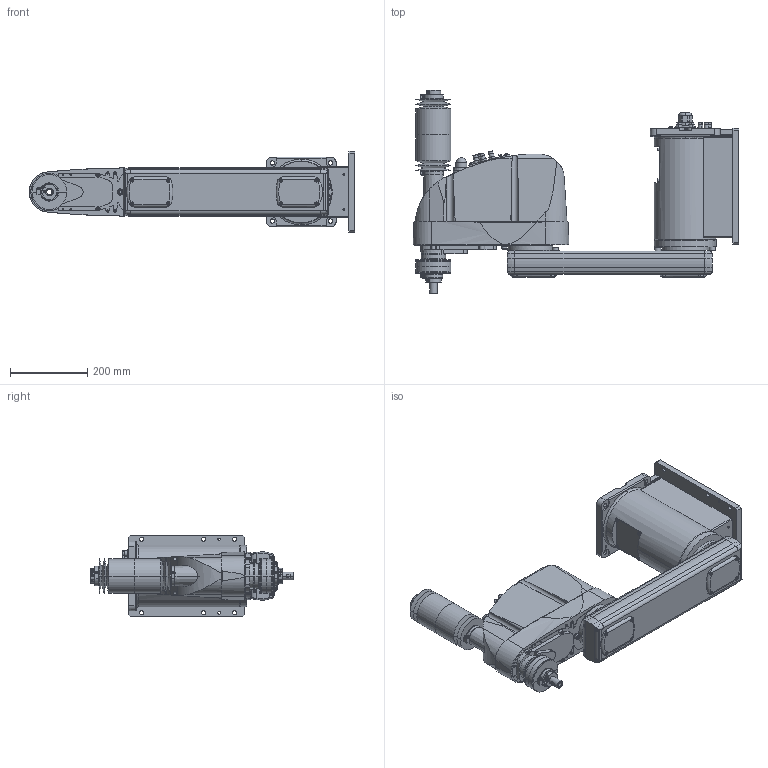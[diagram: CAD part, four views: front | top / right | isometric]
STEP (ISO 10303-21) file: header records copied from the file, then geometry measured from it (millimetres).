
FILE_DESCRIPTION( ( '' ), '1' );
FILE_NAME( '//expscmdclustefs.cadenas.external/client_exchange/iodir/jobs/output/wkb51546045_no0/STEP/G6_651CW_2_14b.stp', '2012-11-23T12:58:05', ( '' ), ( '' ), ' ', ' ', ' ' );
FILE_SCHEMA( ( 'automotive_design' ) );
Length unit declared in the file: millimetre
Products named in the file (8): 1; 2; 3; 4; 5; 6; 7; 8
Bounding box: 840 x 526 x 210 mm (x, y, z)
Volume: 23044332.7 mm3; surface area: 1186995.5 mm2
Topology: 8 solids, 8 shells, 1833 faces, 4488 edges, 2870 vertices
Faces by surface type: plane 947, cylinder 614, cone 232, torus 39, sphere 1
Entity records: 108703 total; most frequent: CARTESIAN_POINT 13023, DIRECTION 9488, STYLED_ITEM 9173, PRESENTATION_STYLE_ASSIGNMENT 9173, COLOUR_RGB 9173, ORIENTED_EDGE 8924, EDGE_CURVE 4462, CURVE_STYLE 4462
